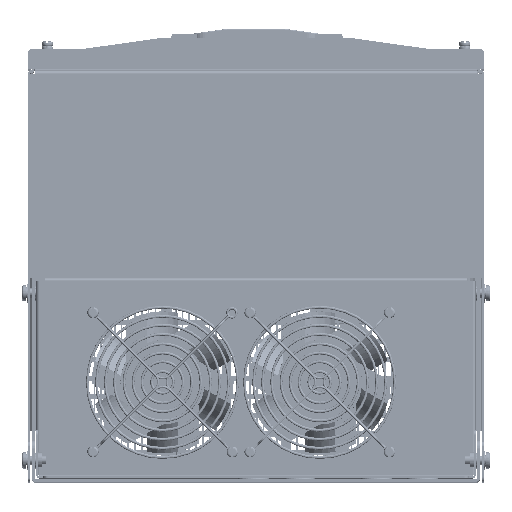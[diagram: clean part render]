
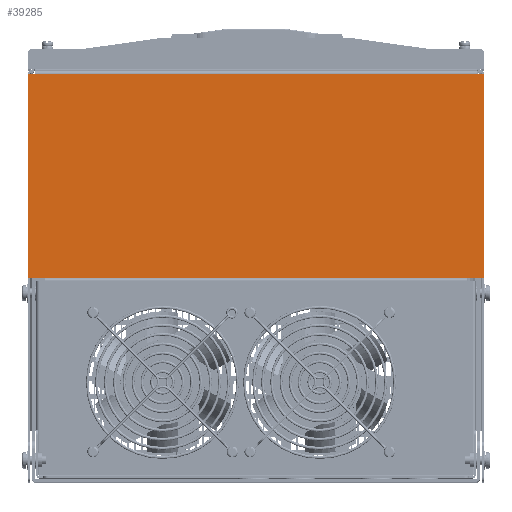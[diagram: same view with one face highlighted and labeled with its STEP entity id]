
A CAD part, top view. The second image highlights one B-rep face of the part: STEP entity #39285.
In plain terms, the highlighted planar face has unit normal (0, 0, 1).
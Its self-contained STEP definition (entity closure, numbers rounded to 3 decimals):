
#38788=DIRECTION('',(-1.,0.,0.));
#38789=VECTOR('',#38788,4.);
#38790=CARTESIAN_POINT('',(-131.,127.,1.5));
#38791=LINE('',#38790,#38789);
#38796=DIRECTION('',(-1.,0.,0.));
#38797=VECTOR('',#38796,262.);
#38798=CARTESIAN_POINT('',(131.,127.,1.5));
#38799=LINE('',#38798,#38797);
#38826=DIRECTION('',(-1.,0.,0.));
#38827=VECTOR('',#38826,4.);
#38828=CARTESIAN_POINT('',(135.,127.,1.5));
#38829=LINE('',#38828,#38827);
#38838=DIRECTION('',(0.,1.,0.));
#38839=VECTOR('',#38838,121.);
#38840=CARTESIAN_POINT('',(135.,6.,1.5));
#38841=LINE('',#38840,#38839);
#38846=DIRECTION('',(1.,0.,0.));
#38847=VECTOR('',#38846,270.);
#38848=CARTESIAN_POINT('',(-135.,6.,1.5));
#38849=LINE('',#38848,#38847);
#38854=DIRECTION('',(0.,-1.,0.));
#38855=VECTOR('',#38854,121.);
#38856=CARTESIAN_POINT('',(-135.,127.,1.5));
#38857=LINE('',#38856,#38855);
#39148=CARTESIAN_POINT('',(-131.,127.,1.5));
#39149=CARTESIAN_POINT('',(-135.,127.,1.5));
#39150=VERTEX_POINT('',#39148);
#39151=VERTEX_POINT('',#39149);
#39152=CARTESIAN_POINT('',(131.,127.,1.5));
#39153=VERTEX_POINT('',#39152);
#39154=CARTESIAN_POINT('',(135.,127.,1.5));
#39155=VERTEX_POINT('',#39154);
#39156=CARTESIAN_POINT('',(135.,6.,1.5));
#39157=VERTEX_POINT('',#39156);
#39158=CARTESIAN_POINT('',(-135.,6.,1.5));
#39159=VERTEX_POINT('',#39158);
#39267=CARTESIAN_POINT('',(0.,0.,1.5));
#39268=DIRECTION('',(0.,0.,1.));
#39269=DIRECTION('',(1.,0.,0.));
#39270=AXIS2_PLACEMENT_3D('',#39267,#39268,#39269);
#39271=PLANE('',#39270);
#39272=ORIENTED_EDGE('',*,*,#39257,.F.);
#39274=ORIENTED_EDGE('',*,*,#39273,.F.);
#39276=ORIENTED_EDGE('',*,*,#39275,.F.);
#39278=ORIENTED_EDGE('',*,*,#39277,.F.);
#39280=ORIENTED_EDGE('',*,*,#39279,.F.);
#39282=ORIENTED_EDGE('',*,*,#39281,.F.);
#39283=EDGE_LOOP('',(#39272,#39274,#39276,#39278,#39280,#39282));
#39284=FACE_OUTER_BOUND('',#39283,.F.);
#39285=ADVANCED_FACE('',(#39284),#39271,.T.);
#39257=EDGE_CURVE('',#39150,#39151,#38791,.T.);
#39273=EDGE_CURVE('',#39153,#39150,#38799,.T.);
#39275=EDGE_CURVE('',#39155,#39153,#38829,.T.);
#39277=EDGE_CURVE('',#39157,#39155,#38841,.T.);
#39279=EDGE_CURVE('',#39159,#39157,#38849,.T.);
#39281=EDGE_CURVE('',#39151,#39159,#38857,.T.);
